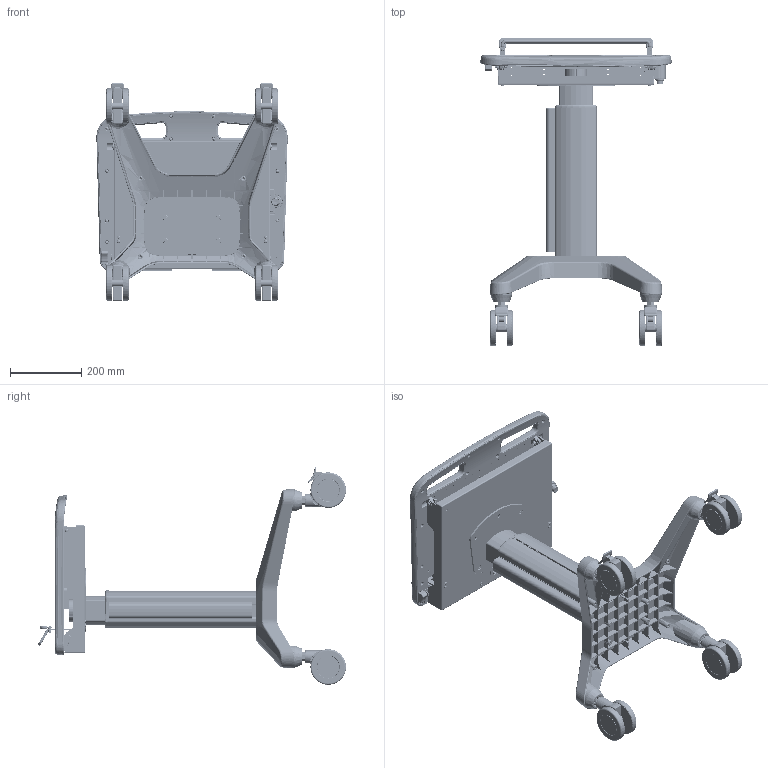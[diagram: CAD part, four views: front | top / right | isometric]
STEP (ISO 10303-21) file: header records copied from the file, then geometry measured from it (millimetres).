
FILE_DESCRIPTION(/* description */ ('Tango Laptop Cart (HC-160B)'),/* implementation_level */ '2;1');
FILE_NAME(/* name */ 'K:\Inventor\ASSY\Tango Healthcare Carts\TNG-L-NP.stp',/* time_stamp */ '2022-05-31T12:59:14-04:00',/* author */ ('ssmith'),/* organization */ (''),/* preprocessor_version */ 'ST-DEVELOPER v18.1',/* originating_system */ 'Autodesk Inventor 2021',/* authorisation */ '');
FILE_SCHEMA (('AUTOMOTIVE_DESIGN { 1 0 10303 214 3 1 1 }'));
Length unit declared in the file: inch
Products named in the file (79): TNG-L-NP; HC-005-PT01_ASM; HC150000001Z; WA00201Z; SC11007Z; HC150000002Z; HC150000003Z; HC100000059Z; HC100000060Z; HC-N012-PT01_ASM; HC100000036Z_ASM; HC1000000362; HC1000000363; HC1000000361; HC100000035Z; SC03105Z; HC100000037Z; HC100000038Z; HC100000039Z; HC100000040Z; SB680000007Z; HC1000000411; HC100000065Z; HC1000000432; HC100000044Z; SC08026Z; HC101000002Z_ASM; HC1000000412; HC100000048Z; HC100000046Z; HC100000045Z; PA01009Z; NU00106Z; HC100000047Z; SC08004Z; HC-023Z-PT01_ASM; HC160000001Z; HC100000018Z; HC110000006Z; SC06006Z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
Assembly tree (182 placements, depth 4):
  TNG-L-NP
    HC-005-PT01_ASM
      HC150000001Z
      WA00201Z  x4
      SC11007Z  x4
      HC150000002Z
      HC150000003Z
      HC100000059Z  x2
      HC100000060Z  x2
    HC-N012-PT01_ASM
      HC100000036Z_ASM
        HC1000000362
        HC1000000363
        HC1000000361
      HC100000035Z
      SC08004Z  x9
      WA00205Z  x3
      SC03105Z  x3
      HC100000037Z
      HC100000038Z
      HC100000039Z
      HC100000040Z
      SB680000007Z  x18
      HC1000000411
      HC100000065Z
      HC1000000432
      HC100000044Z
      SC08026Z  x3
      HC101000002Z_ASM
        HC1000000412
      HC100000048Z
      HC100000046Z
      HC100000045Z
      PA01009Z  x4
      NU00106Z
      HC100000047Z
      SC08012Z  x4
    HC-023Z-PT01_ASM
      HC160000001Z
      HC100000018Z
      HC110000006Z
      WA00203Z  x5
      SC06006Z
      HC100000012Z
      HC100000013Z
      WA00202Z  x4
      SC11014Z  x4
      WA00122Z  x9
      WA00205Z  x7
      NU00310Z  x7
      SC08012Z  x5
      HC100000020Z  x2
      SC11016Z  x2
      HC100000021Z  x2
      HC160000002Z
      HC160000003Z_ASM
        HC1600000031
        HC1600000032
        HC160000003Z
      PC00121Z
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Bounding box: 538.35 x 866.93 x 612.49 mm (x, y, z)
Volume: 8774272.3 mm3; surface area: 4310665.8 mm2
Topology: 177 solids, 231 shells, 11859 faces, 32333 edges, 21486 vertices
Faces by surface type: plane 6813, cylinder 2331, bspline 1713, torus 539, cone 360, sphere 103
Full cylindrical faces by diameter (mm): 2.2 x6, 2.4 x64, 2.5 x6, 3 x88, 3.1 x13, 3.2 x5, 3.3 x4, 3.4 x3, 3.5 x8, 3.988 x6, 4 x7, 4.1 x7, 4.2 x30, 4.5 x3, 5 x72, 5.1 x4, 5.2 x4, 5.25 x5, 6 x218, 6.1 x9, 6.2 x15, 6.3 x11, 6.35 x9, 6.5 x11, 6.8 x4, 6.9 x2, 7 x14, 7.2 x13, 8 x12, 8.1 x5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
Entity records: 444085 total; most frequent: CARTESIAN_POINT 201175, ORIENTED_EDGE 51822, DIRECTION 46593, EDGE_CURVE 25986, VERTEX_POINT 17174, LINE 17027, VECTOR 17027, AXIS2_PLACEMENT_3D 14783
